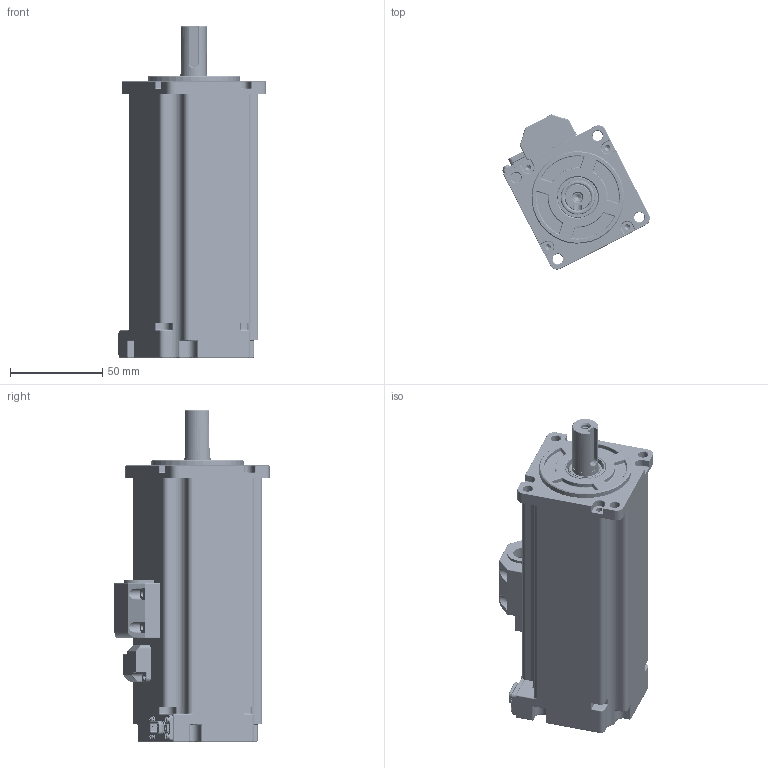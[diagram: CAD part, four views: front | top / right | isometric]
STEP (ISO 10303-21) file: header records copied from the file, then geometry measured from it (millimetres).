
FILE_DESCRIPTION (( 'STEP AP214' ), '1' );
FILE_NAME ('600W低压整机-带刹车（插座式）.STEP', '2023-07-03T02:13:23', ( '' ), ( '' ), 'SwSTEP 2.0', 'SolidWorks 2014', '' );
FILE_SCHEMA (( 'AUTOMOTIVE_DESIGN' ));
Length unit declared in the file: millimetre
Products named in the file (28): 蚐猾 D00B999YF2-TC 15-22-5; 低压电机动力压线盖_1; 60#轴 磁编-配57-低压带刹车1_2; 60棠詩57-600W_1; cross recessed countersunk head screws gb2_GB_CROSS_SCREWS_TYPE10 M3X16-14.35-H1-S_1; 揤盄裔躇猾菜 - 9.2_1; 傍杶_1; 57-600W嘎殤_1; 60-10-26-8粣創_1; 藻笠え_1; 裔啣_1; 57蛌赽沺郋_1; 60- 15-32-9粣創_1; 57 600W沺郋_1; 60陔晤鎢ん綴欶-201126; 玴沺_1; 盄縐_1; 綴傷裔ㄗ湍价陬ㄘ_1; 600W沺郋; 600W儂褲-腴揤_1; 60价陬_1; 600W低压整机-带刹车（插座式）; 源謫 G003-REB1860-4_1; ヶ傷裔_60價釱-201126_1; 60晤鎢ん綴欶; SC40陔晤鎢ん瑤脣釱sc-mc7p-a6-zhichuxianchazuo; 詩璃羞攫 G003-REB1860.1-1HB_1; 40#价陬堤盄揤盄裔
Assembly tree (74 placements, depth 3):
  600W低压整机-带刹车（插座式）
    600W沺郋
      57 600W沺郋_1  x12
      57-600W嘎殤_1  x24
      57蛌赽沺郋_1
      60棠詩57-600W_1  x10
    60- 15-32-9粣創_1
    60-10-26-8粣創_1
    600W儂褲-腴揤_1
    ヶ傷裔_60價釱-201126_1
    揤盄裔躇猾菜 - 9.2_1
    低压电机动力压线盖_1
    60价陬_1
      詩璃羞攫 G003-REB1860.1-1HB_1
      玴沺_1
      藻笠え_1
      傍杶_1  x3
      裔啣_1
      源謫 G003-REB1860-4_1
      cross recessed countersunk head screws gb2_GB_CROSS_SCREWS_TYPE10 M3X16-14.35-H1-S_1  x3
      盄縐_1
    60#轴 磁编-配57-低压带刹车1_2
    綴傷裔ㄗ湍价陬ㄘ_1
    40#价陬堤盄揤盄裔
    蚐猾 D00B999YF2-TC 15-22-5
    60晤鎢ん綴欶
      60陔晤鎢ん綴欶-201126
      SC40陔晤鎢ん瑤脣釱sc-mc7p-a6-zhichuxianchazuo
Bounding box: 79.85 x 83.98 x 179.5 mm (x, y, z)
Volume: 333245.1 mm3; surface area: 250982.6 mm2
Topology: 80 solids, 80 shells, 7421 faces, 19594 edges, 12134 vertices
Faces by surface type: cylinder 3096, plane 2476, cone 758, bspline 547, torus 320, sphere 224
Entity records: 171960 total; most frequent: CARTESIAN_POINT 44360, ORIENTED_EDGE 18528, DIRECTION 17881, EDGE_CURVE 9264, AXIS2_PLACEMENT_3D 6563, VERTEX_POINT 5771, LINE 4755, VECTOR 4755
